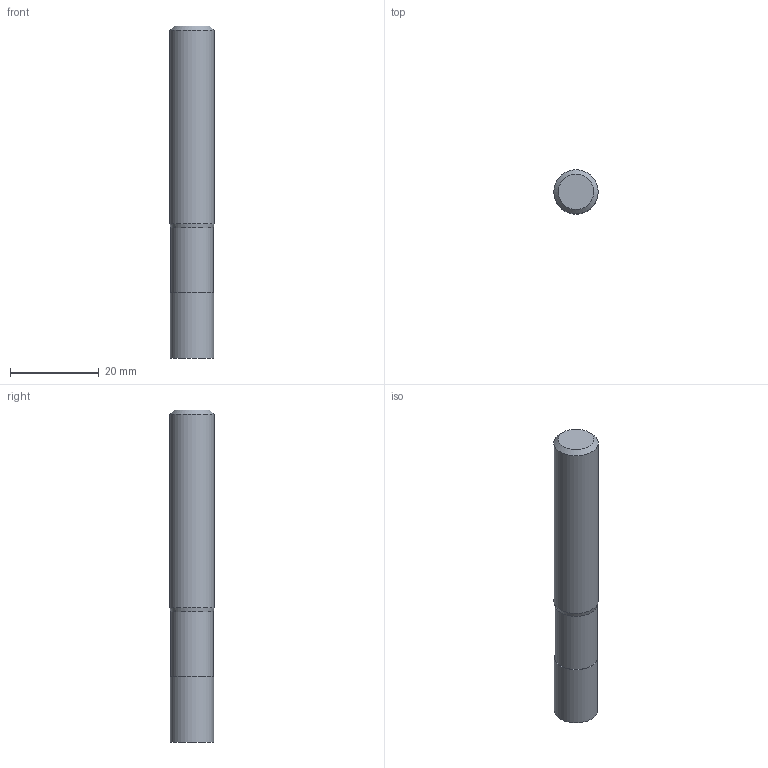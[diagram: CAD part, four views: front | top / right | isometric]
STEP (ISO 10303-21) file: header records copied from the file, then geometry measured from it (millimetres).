
FILE_DESCRIPTION((''),'2;1');
FILE_NAME('C:\Users\nsx150\AppData\Local\Temp\Mastercam 2021\EUJSUNXURU\TEMP.step','2021-04-22T10:29:52',(''),(''),'STEP Write','Mastercam 2021 ... CNC Software, Inc.','');
FILE_SCHEMA(('AUTOMOTIVE_DESIGN'));
Length unit declared in the file: millimetre
Products named in the file (1): None
Bounding box: 10 x 10 x 75 mm (x, y, z)
Volume: 5736.7 mm3; surface area: 2610.6 mm2
Topology: 2 solids, 2 shells, 9 faces, 12 edges, 7 vertices
Faces by surface type: plane 4, cylinder 3, cone 2
Full cylindrical faces by diameter (mm): 9.6 x1, 9.8 x1, 10 x1
Entity records: 211 total; most frequent: DIRECTION 36, CARTESIAN_POINT 25, AXIS2_PLACEMENT_3D 18, ORIENTED_EDGE 14, EDGE_LOOP 14, STYLED_ITEM 12, ADVANCED_FACE 9, FACE_BOUND 8
